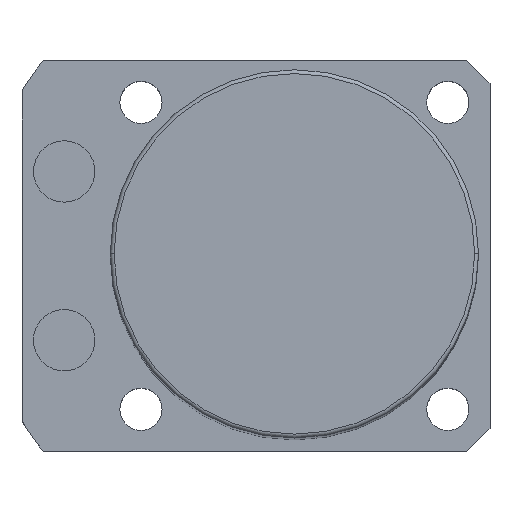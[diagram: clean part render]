
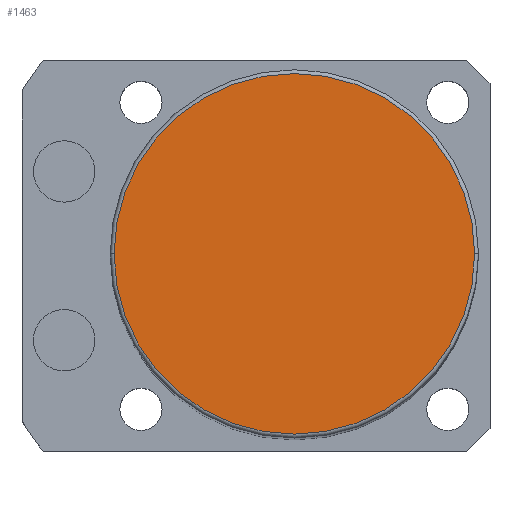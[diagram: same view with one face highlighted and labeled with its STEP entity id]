
A CAD part, top view. The second image highlights one B-rep face of the part: STEP entity #1463.
In plain terms, the highlighted planar face has unit normal (0, 0, 1).
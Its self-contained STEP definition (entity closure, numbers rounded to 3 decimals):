
#115 = DIRECTION ( 'NONE',  ( 0., 0., 1. ) ) ;
#212 = AXIS2_PLACEMENT_3D ( 'NONE', #482, #115, #1278 ) ;
#347 = CARTESIAN_POINT ( 'NONE',  ( 0., 0., 161. ) ) ;
#482 = CARTESIAN_POINT ( 'NONE',  ( 0., 0., 161. ) ) ;
#545 = AXIS2_PLACEMENT_3D ( 'NONE', #2285, #2476, #1300 ) ;
#573 = VERTEX_POINT ( 'NONE', #2224 ) ;
#608 = EDGE_LOOP ( 'NONE', ( #888, #723 ) ) ;
#657 = CARTESIAN_POINT ( 'NONE',  ( 23.5, 0., 161. ) ) ;
#723 = ORIENTED_EDGE ( 'NONE', *, *, #2362, .T. ) ;
#888 = ORIENTED_EDGE ( 'NONE', *, *, #1395, .T. ) ;
#949 = AXIS2_PLACEMENT_3D ( 'NONE', #347, #1542, #1930 ) ;
#977 = CIRCLE ( 'NONE', #212, 23.5 ) ;
#1204 = VERTEX_POINT ( 'NONE', #657 ) ;
#1278 = DIRECTION ( 'NONE',  ( 1., 0., 0. ) ) ;
#1300 = DIRECTION ( 'NONE',  ( 1., 0., 0. ) ) ;
#1395 = EDGE_CURVE ( 'NONE', #1204, #573, #977, .T. ) ;
#1463 = ADVANCED_FACE ( 'NONE', ( #1662 ), #1723, .T. ) ;
#1542 = DIRECTION ( 'NONE',  ( 0., 0., 1. ) ) ;
#1662 = FACE_OUTER_BOUND ( 'NONE', #608, .T. ) ;
#1723 = PLANE ( 'NONE',  #949 ) ;
#1930 = DIRECTION ( 'NONE',  ( 1., 0., 0. ) ) ;
#2224 = CARTESIAN_POINT ( 'NONE',  ( -23.5, 0., 161. ) ) ;
#2285 = CARTESIAN_POINT ( 'NONE',  ( 0., 0., 161. ) ) ;
#2362 = EDGE_CURVE ( 'NONE', #573, #1204, #2519, .T. ) ;
#2476 = DIRECTION ( 'NONE',  ( 0., 0., 1. ) ) ;
#2519 = CIRCLE ( 'NONE', #545, 23.5 ) ;
